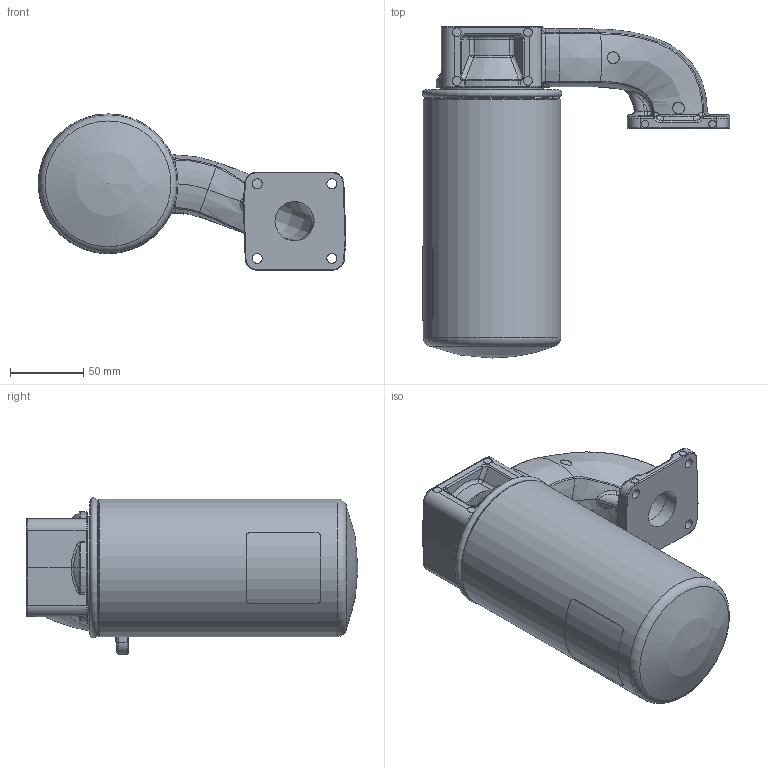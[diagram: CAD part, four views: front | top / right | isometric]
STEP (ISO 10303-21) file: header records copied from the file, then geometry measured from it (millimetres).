
FILE_DESCRIPTION(/* description */ (''),/* implementation_level */ '2;1');
FILE_NAME(/* name */ 'G:\MKTG\PUBLICATIONS\3D Models\G20\For CAD Page\129500-01_Modular Filter Kit.stp',/* time_stamp */ '2020-01-21T11:09:32-06:00',/* author */ ('glausha'),/* organization */ (''),/* preprocessor_version */ 'ST-DEVELOPER v17.2',/* originating_system */ 'Autodesk Inventor 2019',/* authorisation */ '');
FILE_SCHEMA (('AUTOMOTIVE_DESIGN { 1 0 10303 214 3 1 1 }'));
Length unit declared in the file: inch
Products named in the file (5): 129500-01 ; 129340-07; 906007-33; 905002-31; 162212-01
Assembly tree (4 placements, depth 3):
  129500-01 
    129340-07
      906007-33
      905002-31
    162212-01
Bounding box: 209.57 x 226.06 x 106.38 mm (x, y, z)
Volume: 350774.3 mm3; surface area: 208649.5 mm2
Topology: 3 solids, 3 shells, 588 faces, 1553 edges, 961 vertices
Faces by surface type: bspline 187, cylinder 155, plane 120, torus 64, cone 44, sphere 18
Full cylindrical faces by diameter (mm): 4.978 x4, 5 x4, 6 x9, 6.756 x4, 7.137 x12, 8 x4, 16 x1, 22.86 x1, 26.67 x2, 31.717 x7, 34.467 x6, 34.925 x1, 36.5 x1, 37.465 x1, 45.644 x1, 58.496 x1, 59.512 x1, 61.036 x1, 69.85 x1, 72.39 x1, 91.186 x1, 93.726 x1
Entity records: 31976 total; most frequent: CARTESIAN_POINT 17700, ORIENTED_EDGE 3094, DIRECTION 2542, EDGE_CURVE 1547, AXIS2_PLACEMENT_3D 1087, VERTEX_POINT 963, EDGE_LOOP 622, CIRCLE 614
